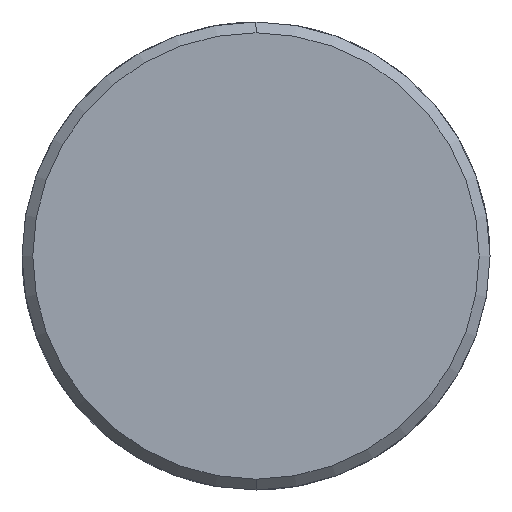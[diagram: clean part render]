
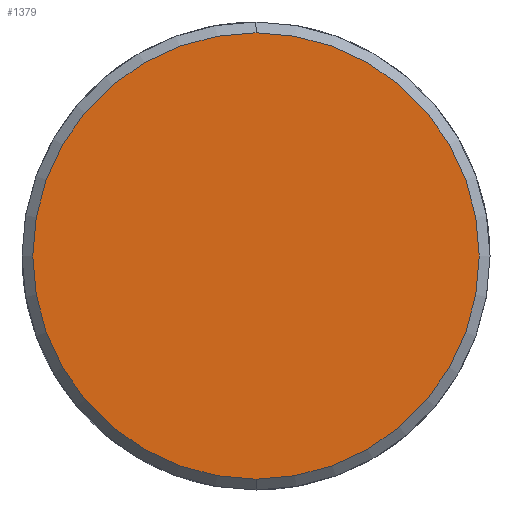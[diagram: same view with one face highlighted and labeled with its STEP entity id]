
A CAD part, left-side view. The second image highlights one B-rep face of the part: STEP entity #1379.
In plain terms, the highlighted planar face has unit normal (-1, 0, 0).
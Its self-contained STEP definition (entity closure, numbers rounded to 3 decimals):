
#1311=CARTESIAN_POINT('Vertex',(-10.,0.,-31.)) ;
#1314=CARTESIAN_POINT('Axis2P3D Location',(-10.,0.,0.)) ;
#1318=CARTESIAN_POINT('Vertex',(-10.,31.,0.)) ;
#1321=CARTESIAN_POINT('Axis2P3D Location',(-10.,0.,0.)) ;
#1325=CARTESIAN_POINT('Vertex',(-10.,0.,31.)) ;
#1347=CARTESIAN_POINT('Axis2P3D Location',(-10.,0.,0.)) ;
#1351=CARTESIAN_POINT('Vertex',(-10.,-31.,0.)) ;
#1354=CARTESIAN_POINT('Axis2P3D Location',(-10.,0.,0.)) ;
#1368=CARTESIAN_POINT('Axis2P3D Location',(-10.,0.,0.)) ;
#1315=DIRECTION('Axis2P3D Direction',(1.,0.,-0.)) ;
#1322=DIRECTION('Axis2P3D Direction',(1.,0.,-0.)) ;
#1348=DIRECTION('Axis2P3D Direction',(1.,0.,-0.)) ;
#1355=DIRECTION('Axis2P3D Direction',(1.,0.,-0.)) ;
#1369=DIRECTION('Axis2P3D Direction',(1.,0.,-0.)) ;
#1370=DIRECTION('Axis2P3D XDirection',(-0.,0.,-1.)) ;
#1316=AXIS2_PLACEMENT_3D('Circle Axis2P3D',#1314,#1315,$) ;
#1323=AXIS2_PLACEMENT_3D('Circle Axis2P3D',#1321,#1322,$) ;
#1349=AXIS2_PLACEMENT_3D('Circle Axis2P3D',#1347,#1348,$) ;
#1356=AXIS2_PLACEMENT_3D('Circle Axis2P3D',#1354,#1355,$) ;
#1371=AXIS2_PLACEMENT_3D('Plane Axis2P3D',#1368,#1369,#1370) ;
#1374=ORIENTED_EDGE('',*,*,#1320,.F.) ;
#1375=ORIENTED_EDGE('',*,*,#1358,.F.) ;
#1376=ORIENTED_EDGE('',*,*,#1353,.F.) ;
#1377=ORIENTED_EDGE('',*,*,#1327,.F.) ;
#1379=ADVANCED_FACE('351-50X96X280',(#1378),#1372,.F.) ;
#1317=CIRCLE('generated circle',#1316,31.) ;
#1324=CIRCLE('generated circle',#1323,31.) ;
#1350=CIRCLE('generated circle',#1349,31.) ;
#1357=CIRCLE('generated circle',#1356,31.) ;
#1320=EDGE_CURVE('',#1312,#1319,#1317,.T.) ;
#1327=EDGE_CURVE('',#1319,#1326,#1324,.T.) ;
#1353=EDGE_CURVE('',#1326,#1352,#1350,.T.) ;
#1358=EDGE_CURVE('',#1352,#1312,#1357,.T.) ;
#1373=EDGE_LOOP('',(#1374,#1375,#1376,#1377)) ;
#1378=FACE_OUTER_BOUND('',#1373,.T.) ;
#1372=PLANE('Plane',#1371) ;
#1312=VERTEX_POINT('',#1311) ;
#1319=VERTEX_POINT('',#1318) ;
#1326=VERTEX_POINT('',#1325) ;
#1352=VERTEX_POINT('',#1351) ;
